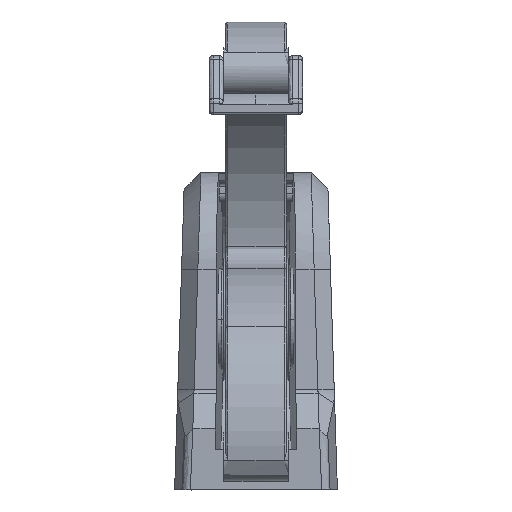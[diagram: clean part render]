
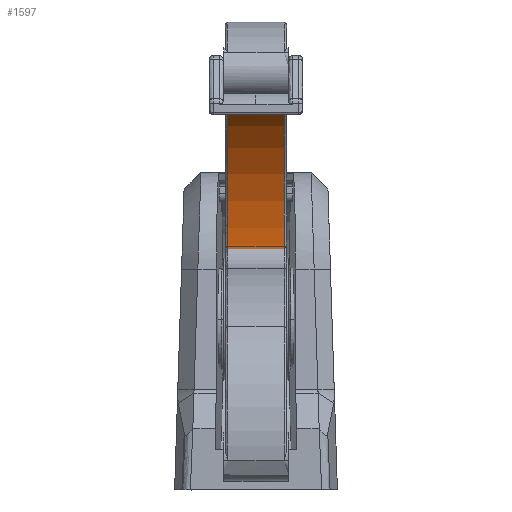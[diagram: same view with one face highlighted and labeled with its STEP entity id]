
A CAD part, left-side view. The second image highlights one B-rep face of the part: STEP entity #1597.
In plain terms, the highlighted free-form (B-spline) face has degree [2, 1] with [3, 2] control points.
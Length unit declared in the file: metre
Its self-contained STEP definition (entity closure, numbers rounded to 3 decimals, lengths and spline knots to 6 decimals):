
#1597 = ADVANCED_FACE( '', ( #3255 ), #3256, .T. );
#3255 = FACE_OUTER_BOUND( '', #13109, .T. );
#3256 = ( BOUNDED_SURFACE(  )B_SPLINE_SURFACE( 2, 1, ( ( #13112, #13113 ), ( #13114, #13115 ), ( #13116, #13117 ) ), .UNSPECIFIED., .F., .F., .F. )B_SPLINE_SURFACE_WITH_KNOTS( ( 3, 3 ), ( 2, 2 ), ( 0., 1. ), ( 0.04, 0.96 ), .UNSPECIFIED. )GEOMETRIC_REPRESENTATION_ITEM(  )RATIONAL_B_SPLINE_SURFACE( ( ( 1., 1. ), ( 0.794, 0.794 ), ( 1., 1. ) ) )REPRESENTATION_ITEM( '' )SURFACE(  ) );
#13109 = EDGE_LOOP( '', ( #17492, #17493, #17494, #17495 ) );
#13112 = CARTESIAN_POINT( '', ( -0.039271, 0.0069, 0.102829 ) );
#13113 = CARTESIAN_POINT( '', ( -0.039271, -0.0069, 0.102829 ) );
#13114 = CARTESIAN_POINT( '', ( -0.001846, 0.0069, 0.094977 ) );
#13115 = CARTESIAN_POINT( '', ( -0.001846, -0.0069, 0.094977 ) );
#13116 = CARTESIAN_POINT( '', ( 0.000378, 0.0069, 0.056802 ) );
#13117 = CARTESIAN_POINT( '', ( 0.000378, -0.0069, 0.056802 ) );
#17492 = ORIENTED_EDGE( '', *, *, #19516, .F. );
#17493 = ORIENTED_EDGE( '', *, *, #18371, .F. );
#17494 = ORIENTED_EDGE( '', *, *, #19568, .T. );
#17495 = ORIENTED_EDGE( '', *, *, #19589, .F. );
#18371 = EDGE_CURVE( '', #20517, #20515, #20519, .T. );
#19516 = EDGE_CURVE( '', #20515, #21177, #22066, .T. );
#19568 = EDGE_CURVE( '', #20517, #21306, #22121, .T. );
#19589 = EDGE_CURVE( '', #21177, #21306, #22143, .T. );
#20515 = VERTEX_POINT( '', #27739 );
#20517 = VERTEX_POINT( '', #27750 );
#20519 = B_SPLINE_CURVE_WITH_KNOTS( '', 1, ( #27761, #27762 ), .UNSPECIFIED., .F., .F., ( 2, 2 ), ( 0.04, 0.96 ), .UNSPECIFIED. );
#21177 = VERTEX_POINT( '', #32291 );
#21306 = VERTEX_POINT( '', #33301 );
#22066 = ( BOUNDED_CURVE(  )B_SPLINE_CURVE( 2, ( #38542, #38543, #38544 ), .UNSPECIFIED., .F., .F. )B_SPLINE_CURVE_WITH_KNOTS( ( 3, 3 ), ( 0., 1. ), .UNSPECIFIED. )CURVE(  )GEOMETRIC_REPRESENTATION_ITEM(  )RATIONAL_B_SPLINE_CURVE( ( 1., 0.794, 1. ) )REPRESENTATION_ITEM( '' ) );
#22121 = ( BOUNDED_CURVE(  )B_SPLINE_CURVE( 2, ( #38895, #38896, #38897 ), .UNSPECIFIED., .F., .F. )B_SPLINE_CURVE_WITH_KNOTS( ( 3, 3 ), ( 0., 1. ), .UNSPECIFIED. )CURVE(  )GEOMETRIC_REPRESENTATION_ITEM(  )RATIONAL_B_SPLINE_CURVE( ( 1., 0.794, 1. ) )REPRESENTATION_ITEM( '' ) );
#22143 = B_SPLINE_CURVE_WITH_KNOTS( '', 1, ( #38971, #38972 ), .UNSPECIFIED., .F., .F., ( 2, 2 ), ( 0.04, 0.96 ), .UNSPECIFIED. );
#27739 = CARTESIAN_POINT( '', ( -0.039271, -0.0069, 0.102829 ) );
#27750 = CARTESIAN_POINT( '', ( -0.039271, 0.0069, 0.102829 ) );
#27761 = CARTESIAN_POINT( '', ( -0.039271, 0.0069, 0.102829 ) );
#27762 = CARTESIAN_POINT( '', ( -0.039271, -0.0069, 0.102829 ) );
#32291 = CARTESIAN_POINT( '', ( 0.000378, -0.0069, 0.056802 ) );
#33301 = CARTESIAN_POINT( '', ( 0.000378, 0.0069, 0.056802 ) );
#38542 = CARTESIAN_POINT( '', ( -0.039271, -0.0069, 0.102829 ) );
#38543 = CARTESIAN_POINT( '', ( -0.001846, -0.0069, 0.094977 ) );
#38544 = CARTESIAN_POINT( '', ( 0.000378, -0.0069, 0.056802 ) );
#38895 = CARTESIAN_POINT( '', ( -0.039271, 0.0069, 0.102829 ) );
#38896 = CARTESIAN_POINT( '', ( -0.001846, 0.0069, 0.094977 ) );
#38897 = CARTESIAN_POINT( '', ( 0.000378, 0.0069, 0.056802 ) );
#38971 = CARTESIAN_POINT( '', ( 0.000378, -0.0069, 0.056802 ) );
#38972 = CARTESIAN_POINT( '', ( 0.000378, 0.0069, 0.056802 ) );
